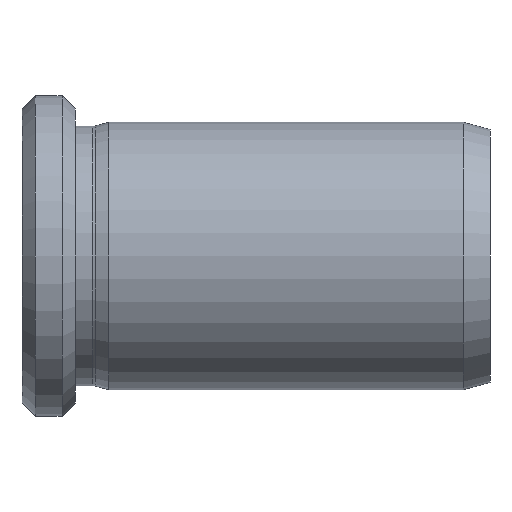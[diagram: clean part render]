
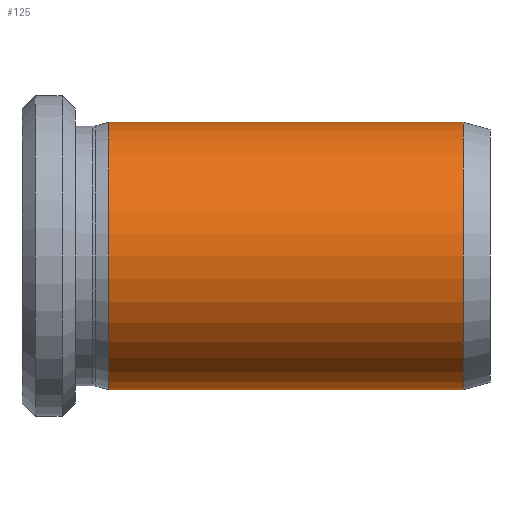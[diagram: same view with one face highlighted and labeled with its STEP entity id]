
A CAD part, front view. The second image highlights one B-rep face of the part: STEP entity #125.
In plain terms, the highlighted cylindrical face has radius 10 mm (diameter 20 mm), a partial arc.
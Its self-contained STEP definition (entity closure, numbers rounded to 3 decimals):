
#1 = CYLINDRICAL_SURFACE ( 'NONE', #297, 10. ) ;
#4 = LINE ( 'NONE', #637, #417 ) ;
#40 = DIRECTION ( 'NONE',  ( -1., 0., 0. ) ) ;
#50 = DIRECTION ( 'NONE',  ( 0., 0., 1. ) ) ;
#107 = CARTESIAN_POINT ( 'NONE',  ( 43.8, 0., -10. ) ) ;
#110 = CARTESIAN_POINT ( 'NONE',  ( 17.3, 0., -10. ) ) ;
#113 = CARTESIAN_POINT ( 'NONE',  ( 17.3, 0., 0. ) ) ;
#125 = ADVANCED_FACE ( 'NONE', ( #180 ), #1, .T. ) ;
#156 = ORIENTED_EDGE ( 'NONE', *, *, #409, .F. ) ;
#168 = CARTESIAN_POINT ( 'NONE',  ( 17.3, 0., 10. ) ) ;
#180 = FACE_OUTER_BOUND ( 'NONE', #596, .T. ) ;
#203 = EDGE_CURVE ( 'NONE', #255, #314, #4, .T. ) ;
#205 = CARTESIAN_POINT ( 'NONE',  ( 43.8, 0., 10. ) ) ;
#250 = VECTOR ( 'NONE', #568, 1000. ) ;
#254 = DIRECTION ( 'NONE',  ( -1., 0., 0. ) ) ;
#255 = VERTEX_POINT ( 'NONE', #107 ) ;
#272 = VERTEX_POINT ( 'NONE', #168 ) ;
#291 = ORIENTED_EDGE ( 'NONE', *, *, #203, .F. ) ;
#297 = AXIS2_PLACEMENT_3D ( 'NONE', #340, #378, #380 ) ;
#314 = VERTEX_POINT ( 'NONE', #110 ) ;
#322 = AXIS2_PLACEMENT_3D ( 'NONE', #113, #424, #50 ) ;
#333 = AXIS2_PLACEMENT_3D ( 'NONE', #590, #254, #547 ) ;
#340 = CARTESIAN_POINT ( 'NONE',  ( 0., 0., 0. ) ) ;
#355 = CIRCLE ( 'NONE', #322, 10. ) ;
#374 = EDGE_CURVE ( 'NONE', #565, #272, #482, .T. ) ;
#378 = DIRECTION ( 'NONE',  ( -1., 0., 0. ) ) ;
#380 = DIRECTION ( 'NONE',  ( 0., 0., 1. ) ) ;
#407 = ORIENTED_EDGE ( 'NONE', *, *, #505, .T. ) ;
#409 = EDGE_CURVE ( 'NONE', #314, #272, #355, .T. ) ;
#417 = VECTOR ( 'NONE', #40, 1000. ) ;
#424 = DIRECTION ( 'NONE',  ( -1., 0., 0. ) ) ;
#437 = CIRCLE ( 'NONE', #333, 10. ) ;
#439 = ORIENTED_EDGE ( 'NONE', *, *, #374, .T. ) ;
#482 = LINE ( 'NONE', #605, #250 ) ;
#505 = EDGE_CURVE ( 'NONE', #255, #565, #437, .T. ) ;
#547 = DIRECTION ( 'NONE',  ( 0., 0., 1. ) ) ;
#565 = VERTEX_POINT ( 'NONE', #205 ) ;
#568 = DIRECTION ( 'NONE',  ( -1., 0., 0. ) ) ;
#590 = CARTESIAN_POINT ( 'NONE',  ( 43.8, 0., 0. ) ) ;
#596 = EDGE_LOOP ( 'NONE', ( #291, #407, #439, #156 ) ) ;
#605 = CARTESIAN_POINT ( 'NONE',  ( 0., 0., 10. ) ) ;
#637 = CARTESIAN_POINT ( 'NONE',  ( 0., 0., -10. ) ) ;
